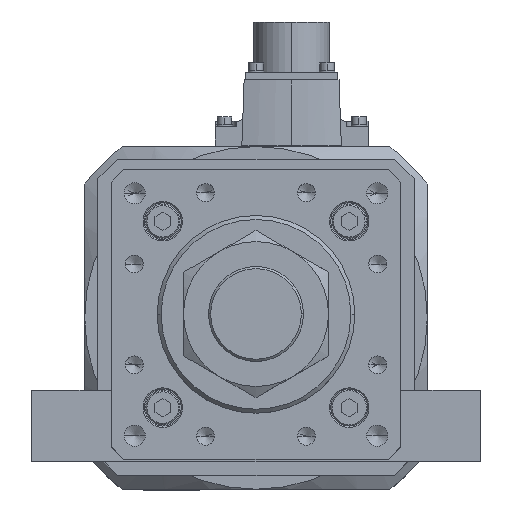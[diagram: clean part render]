
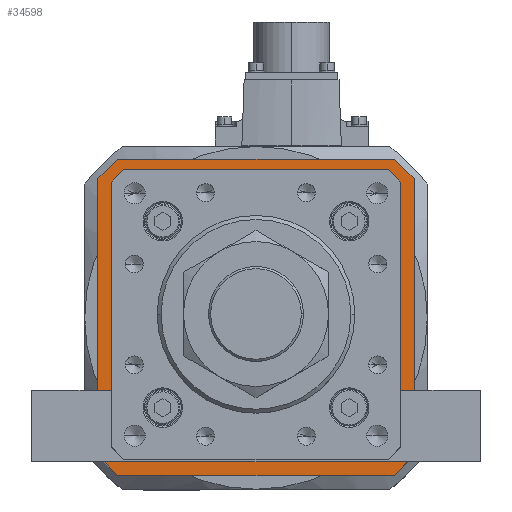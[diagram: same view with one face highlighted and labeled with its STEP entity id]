
A CAD part, top view. The second image highlights one B-rep face of the part: STEP entity #34598.
In plain terms, the highlighted planar face has unit normal (0, 0, 1).
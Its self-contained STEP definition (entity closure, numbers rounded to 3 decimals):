
#401 = EDGE_CURVE ( 'NONE', #33558, #5237, #8638, .T. ) ;
#697 = CARTESIAN_POINT ( 'NONE',  ( 53.5, 49.593, -119. ) ) ;
#1038 = LINE ( 'NONE', #9897, #2020 ) ;
#1045 = LINE ( 'NONE', #25049, #30135 ) ;
#1423 = EDGE_CURVE ( 'NONE', #13588, #28776, #37633, .T. ) ;
#1907 = DIRECTION ( 'NONE',  ( -0.707, 0.707, 0. ) ) ;
#1949 = VERTEX_POINT ( 'NONE', #12634 ) ;
#2020 = VECTOR ( 'NONE', #3809, 1000. ) ;
#2145 = LINE ( 'NONE', #27990, #23845 ) ;
#2419 = CARTESIAN_POINT ( 'NONE',  ( -49.593, 53.5, -119. ) ) ;
#2445 = EDGE_CURVE ( 'NONE', #17990, #1949, #1038, .T. ) ;
#2453 = AXIS2_PLACEMENT_3D ( 'NONE', #13830, #13581, #31283 ) ;
#3331 = EDGE_CURVE ( 'NONE', #9618, #20808, #1045, .T. ) ;
#3809 = DIRECTION ( 'NONE',  ( 0.707, -0.707, 0. ) ) ;
#3811 = CARTESIAN_POINT ( 'NONE',  ( 60., -52.5, -119. ) ) ;
#4760 = CARTESIAN_POINT ( 'NONE',  ( 53.5, -49.8, -119. ) ) ;
#5066 = EDGE_LOOP ( 'NONE', ( #26008, #36658, #25078, #17430, #31091, #19642, #34311, #19061 ) ) ;
#5237 = VERTEX_POINT ( 'NONE', #27537 ) ;
#5304 = LINE ( 'NONE', #29732, #12233 ) ;
#5412 = VERTEX_POINT ( 'NONE', #27794 ) ;
#6205 = EDGE_CURVE ( 'NONE', #21424, #17990, #13376, .T. ) ;
#6294 = LINE ( 'NONE', #35003, #25253 ) ;
#6301 = VERTEX_POINT ( 'NONE', #35627 ) ;
#6354 = CARTESIAN_POINT ( 'NONE',  ( 60., -52.5, -119. ) ) ;
#6564 = LINE ( 'NONE', #28241, #36572 ) ;
#7444 = DIRECTION ( 'NONE',  ( 0., 1., 0. ) ) ;
#7713 = VECTOR ( 'NONE', #36922, 1000. ) ;
#7809 = ORIENTED_EDGE ( 'NONE', *, *, #6205, .F. ) ;
#8638 = LINE ( 'NONE', #4760, #7713 ) ;
#8749 = EDGE_CURVE ( 'NONE', #28776, #27608, #6294, .T. ) ;
#9450 = DIRECTION ( 'NONE',  ( 0., 1., 0. ) ) ;
#9618 = VERTEX_POINT ( 'NONE', #2419 ) ;
#9617 = EDGE_CURVE ( 'NONE', #13744, #9618, #34449, .T. ) ;
#9897 = CARTESIAN_POINT ( 'NONE',  ( 60., 52.5, -119. ) ) ;
#10160 = CARTESIAN_POINT ( 'NONE',  ( -53.5, 49.593, -119. ) ) ;
#10382 = PLANE ( 'NONE',  #2453 ) ;
#10536 = CARTESIAN_POINT ( 'NONE',  ( 49.593, -53.5, -119. ) ) ;
#10854 = CARTESIAN_POINT ( 'NONE',  ( 49.593, 53.5, -119. ) ) ;
#10891 = VECTOR ( 'NONE', #20134, 1000. ) ;
#11066 = CARTESIAN_POINT ( 'NONE',  ( -60., 52.5, -119. ) ) ;
#11089 = EDGE_CURVE ( 'NONE', #5412, #28294, #22739, .T. ) ;
#12233 = VECTOR ( 'NONE', #23665, 1000. ) ;
#12634 = CARTESIAN_POINT ( 'NONE',  ( 60., 52.5, -119. ) ) ;
#13376 = LINE ( 'NONE', #32521, #29966 ) ;
#13581 = DIRECTION ( 'NONE',  ( 0., 0., 1. ) ) ;
#13588 = VERTEX_POINT ( 'NONE', #3811 ) ;
#13744 = VERTEX_POINT ( 'NONE', #10160 ) ;
#13797 = ORIENTED_EDGE ( 'NONE', *, *, #29500, .F. ) ;
#13830 = CARTESIAN_POINT ( 'NONE',  ( 0., 0., -119. ) ) ;
#14082 = EDGE_CURVE ( 'NONE', #26380, #6301, #23649, .T. ) ;
#14856 = VECTOR ( 'NONE', #9450, 1000. ) ;
#15116 = CARTESIAN_POINT ( 'NONE',  ( -53.5, -49.593, -119. ) ) ;
#15167 = CARTESIAN_POINT ( 'NONE',  ( 60., 52.5, -119. ) ) ;
#16447 = CARTESIAN_POINT ( 'NONE',  ( -53.5, 49.8, -119. ) ) ;
#16525 = ORIENTED_EDGE ( 'NONE', *, *, #23223, .F. ) ;
#17430 = ORIENTED_EDGE ( 'NONE', *, *, #29984, .T. ) ;
#17755 = EDGE_LOOP ( 'NONE', ( #7809, #16525, #36413, #27610, #27305, #22769, #13797, #31217 ) ) ;
#17990 = VERTEX_POINT ( 'NONE', #31766 ) ;
#18170 = VECTOR ( 'NONE', #35873, 1000. ) ;
#18183 = LINE ( 'NONE', #29741, #21426 ) ;
#18261 = VECTOR ( 'NONE', #7444, 1000. ) ;
#18359 = FACE_BOUND ( 'NONE', #5066, .T. ) ;
#18453 = CARTESIAN_POINT ( 'NONE',  ( -60., 52.5, -119. ) ) ;
#18483 = DIRECTION ( 'NONE',  ( 0.707, 0.707, 0. ) ) ;
#18955 = DIRECTION ( 'NONE',  ( 1., 0., 0. ) ) ;
#19061 = ORIENTED_EDGE ( 'NONE', *, *, #9617, .T. ) ;
#19391 = VECTOR ( 'NONE', #18483, 1000. ) ;
#19642 = ORIENTED_EDGE ( 'NONE', *, *, #27513, .T. ) ;
#20134 = DIRECTION ( 'NONE',  ( 0.707, 0.707, 0. ) ) ;
#20808 = VERTEX_POINT ( 'NONE', #10854 ) ;
#21424 = VERTEX_POINT ( 'NONE', #33521 ) ;
#21426 = VECTOR ( 'NONE', #32987, 1000. ) ;
#22724 = VECTOR ( 'NONE', #27791, 1000. ) ;
#22739 = LINE ( 'NONE', #18453, #14856 ) ;
#22769 = ORIENTED_EDGE ( 'NONE', *, *, #1423, .F. ) ;
#23223 = EDGE_CURVE ( 'NONE', #28294, #21424, #35124, .T. ) ;
#23649 = LINE ( 'NONE', #33760, #22724 ) ;
#23665 = DIRECTION ( 'NONE',  ( 0.707, -0.707, 0. ) ) ;
#23845 = VECTOR ( 'NONE', #1907, 1000. ) ;
#25049 = CARTESIAN_POINT ( 'NONE',  ( 49.8, 53.5, -119. ) ) ;
#25078 = ORIENTED_EDGE ( 'NONE', *, *, #401, .T. ) ;
#25253 = VECTOR ( 'NONE', #31887, 1000. ) ;
#26008 = ORIENTED_EDGE ( 'NONE', *, *, #3331, .T. ) ;
#26076 = CARTESIAN_POINT ( 'NONE',  ( -52.5, -60., -119. ) ) ;
#26380 = VERTEX_POINT ( 'NONE', #10536 ) ;
#27305 = ORIENTED_EDGE ( 'NONE', *, *, #8749, .F. ) ;
#27513 = EDGE_CURVE ( 'NONE', #6301, #34398, #2145, .T. ) ;
#27537 = CARTESIAN_POINT ( 'NONE',  ( 53.5, -49.593, -119. ) ) ;
#27608 = VERTEX_POINT ( 'NONE', #26076 ) ;
#27610 = ORIENTED_EDGE ( 'NONE', *, *, #31348, .F. ) ;
#27791 = DIRECTION ( 'NONE',  ( -1., 0., 0. ) ) ;
#27794 = CARTESIAN_POINT ( 'NONE',  ( -60., -52.5, -119. ) ) ;
#27990 = CARTESIAN_POINT ( 'NONE',  ( -53.646, -49.446, -119. ) ) ;
#28241 = CARTESIAN_POINT ( 'NONE',  ( -52.5, -60., -119. ) ) ;
#28294 = VERTEX_POINT ( 'NONE', #11066 ) ;
#28776 = VERTEX_POINT ( 'NONE', #32169 ) ;
#29423 = DIRECTION ( 'NONE',  ( 1., 0., 0. ) ) ;
#29500 = EDGE_CURVE ( 'NONE', #1949, #13588, #37659, .T. ) ;
#29732 = CARTESIAN_POINT ( 'NONE',  ( 53.646, 49.446, -119. ) ) ;
#29741 = CARTESIAN_POINT ( 'NONE',  ( 49.446, -53.646, -119. ) ) ;
#29966 = VECTOR ( 'NONE', #29423, 1000. ) ;
#29984 = EDGE_CURVE ( 'NONE', #5237, #26380, #18183, .T. ) ;
#30135 = VECTOR ( 'NONE', #18955, 1000. ) ;
#30699 = LINE ( 'NONE', #16447, #18261 ) ;
#31091 = ORIENTED_EDGE ( 'NONE', *, *, #14082, .T. ) ;
#31217 = ORIENTED_EDGE ( 'NONE', *, *, #2445, .F. ) ;
#31283 = DIRECTION ( 'NONE',  ( 1., 0., 0. ) ) ;
#31348 = EDGE_CURVE ( 'NONE', #27608, #5412, #6564, .T. ) ;
#31611 = CARTESIAN_POINT ( 'NONE',  ( -49.446, 53.646, -119. ) ) ;
#31745 = FACE_OUTER_BOUND ( 'NONE', #17755, .T. ) ;
#31766 = CARTESIAN_POINT ( 'NONE',  ( 52.5, 60., -119. ) ) ;
#31887 = DIRECTION ( 'NONE',  ( -1., 0., 0. ) ) ;
#32169 = CARTESIAN_POINT ( 'NONE',  ( 52.5, -60., -119. ) ) ;
#32521 = CARTESIAN_POINT ( 'NONE',  ( 52.5, 60., -119. ) ) ;
#32987 = DIRECTION ( 'NONE',  ( -0.707, -0.707, 0. ) ) ;
#33343 = DIRECTION ( 'NONE',  ( -0.707, -0.707, 0. ) ) ;
#33521 = CARTESIAN_POINT ( 'NONE',  ( -52.5, 60., -119. ) ) ;
#33558 = VERTEX_POINT ( 'NONE', #697 ) ;
#33760 = CARTESIAN_POINT ( 'NONE',  ( -49.8, -53.5, -119. ) ) ;
#34199 = DIRECTION ( 'NONE',  ( -0.707, 0.707, 0. ) ) ;
#34311 = ORIENTED_EDGE ( 'NONE', *, *, #36773, .T. ) ;
#34398 = VERTEX_POINT ( 'NONE', #15116 ) ;
#34449 = LINE ( 'NONE', #31611, #10891 ) ;
#34598 = ADVANCED_FACE ( 'NONE', ( #18359, #31745 ), #10382, .T. ) ;
#35003 = CARTESIAN_POINT ( 'NONE',  ( 52.5, -60., -119. ) ) ;
#35124 = LINE ( 'NONE', #35944, #19391 ) ;
#35627 = CARTESIAN_POINT ( 'NONE',  ( -49.593, -53.5, -119. ) ) ;
#35873 = DIRECTION ( 'NONE',  ( 0., -1., 0. ) ) ;
#35944 = CARTESIAN_POINT ( 'NONE',  ( -52.5, 60., -119. ) ) ;
#36262 = VECTOR ( 'NONE', #33343, 1000. ) ;
#36413 = ORIENTED_EDGE ( 'NONE', *, *, #11089, .F. ) ;
#36572 = VECTOR ( 'NONE', #34199, 1000. ) ;
#36658 = ORIENTED_EDGE ( 'NONE', *, *, #36990, .T. ) ;
#36773 = EDGE_CURVE ( 'NONE', #34398, #13744, #30699, .T. ) ;
#36922 = DIRECTION ( 'NONE',  ( 0., -1., 0. ) ) ;
#36990 = EDGE_CURVE ( 'NONE', #20808, #33558, #5304, .T. ) ;
#37633 = LINE ( 'NONE', #6354, #36262 ) ;
#37659 = LINE ( 'NONE', #15167, #18170 ) ;
